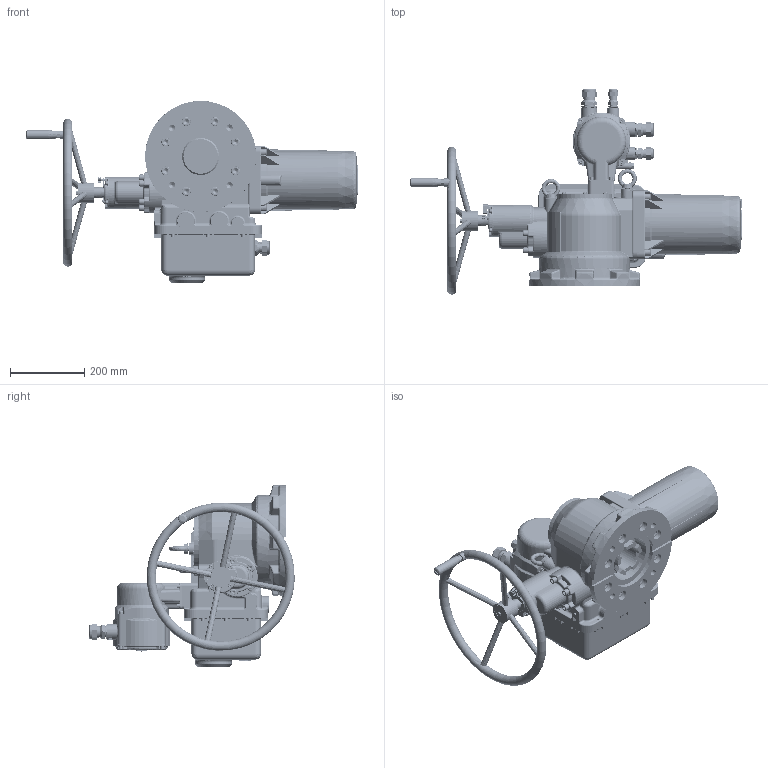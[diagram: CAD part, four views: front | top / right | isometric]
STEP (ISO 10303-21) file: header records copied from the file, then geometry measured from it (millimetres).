
FILE_DESCRIPTION(('STEP AP242'), '1');
FILE_NAME('9034B', '', ('UNSPECIFIED'), ('UNSPECIFIED'), 'C3D Converter', 'C3D Toolkit', '');
FILE_SCHEMA(('AP242_MANAGED_MODEL_BASED_3D_ENGINEERING_MIM_LF { 1 0 10303 442 1 1 4 }'));
Length unit declared in the file: millimetre
Products named in the file (1): ГЗ-ВВ L=425
Bounding box: 896.9 x 554.71 x 492 mm (x, y, z)
Volume: 109182 mm3; surface area: 2449835.6 mm2
Topology: 5 solids, 101 shells, 7582 faces, 20360 edges, 13278 vertices
Faces by surface type: plane 3694, cylinder 1809, bspline 1035, cone 534, torus 439, sphere 71
Full cylindrical faces by diameter (mm): 2 x3, 2.2 x4, 2.459 x2, 2.5 x1, 2.675 x2, 3 x4, 3.2 x7, 3.242 x4, 3.5 x1, 4 x7, 4.134 x13, 4.2 x1, 4.5 x3, 4.6 x1, 4.8 x6, 4.917 x24, 5 x10, 6 x42, 6.1 x1, 6.5 x9, 6.647 x3, 7 x31, 8 x9, 8.376 x1, 8.5 x7, 8.9 x7, 9.3 x1, 10 x41, 10.106 x4, 10.2 x1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
Entity records: 417878 total; most frequent: CARTESIAN_POINT 181614, ORIENTED_EDGE 38229, DIRECTION 32471, EDGE_CURVE 19132, VERTEX_POINT 13113, AXIS2_PLACEMENT_3D 12205, EDGE_LOOP 9158, FACE_BOUND 8668
